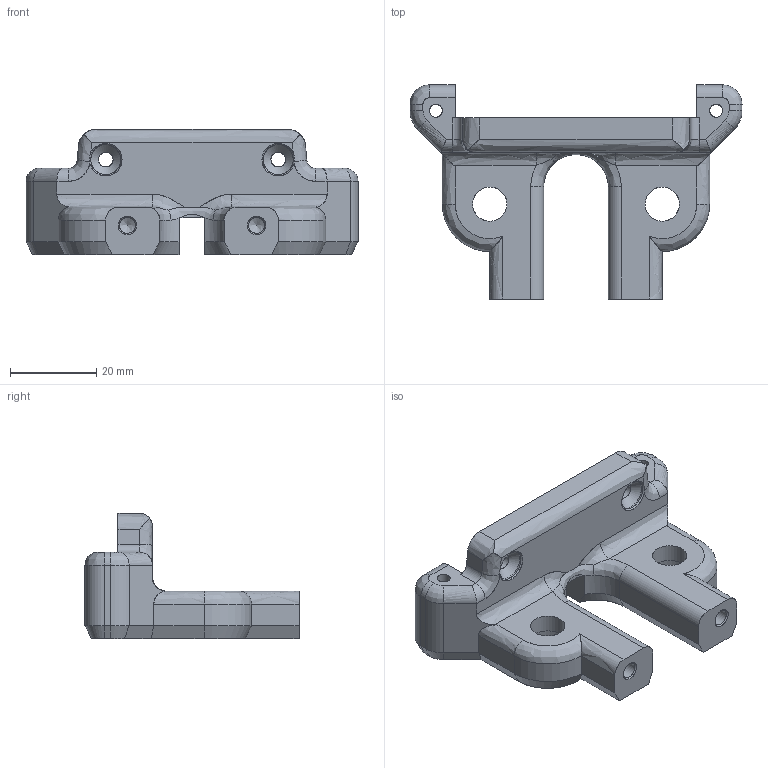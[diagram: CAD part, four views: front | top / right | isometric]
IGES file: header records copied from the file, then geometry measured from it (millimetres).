
Global section: file name: C:\Users\gehrichcr\Documents\1 Drive Backup\Practice\Inspire\V1.5\IGES\Frame Bushing Holder Rear V1.5.igs; native system: NX V8.5; preprocessor: SIEMENS PLM Software NX 8.5; date: 20150608.090803; units: millimetre
Bounding box: 77 x 49.65 x 29 mm (x, y, z)
Surface area: 10842.9 mm2 (no closed solid volume)
Topology: 0 solids, 0 shells, 117 faces, 805 edges, 791 vertices
Faces by surface type: bspline 117
